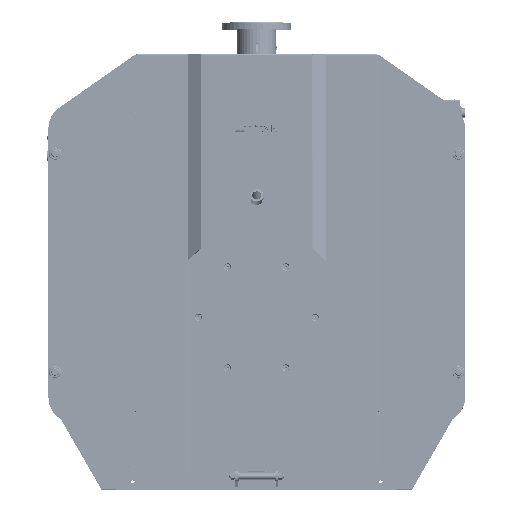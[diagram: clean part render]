
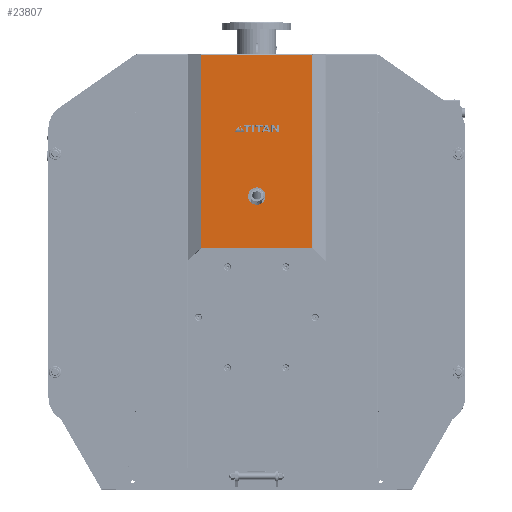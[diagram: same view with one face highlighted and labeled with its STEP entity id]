
A CAD part, top view. The second image highlights one B-rep face of the part: STEP entity #23807.
In plain terms, the highlighted planar face has unit normal (0, 0, 1) as drawn and (1, 0, 0) by its records, which use the part's own axes.
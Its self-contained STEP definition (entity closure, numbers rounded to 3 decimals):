
#23807=ADVANCED_FACE('',(#74054,#74056),#74058,.T.);
#74054=FACE_BOUND('',#74055,.T.);
#74055=EDGE_LOOP('',(#151126,#151127,#151128,#151129,#151130,#151131));
#74056=FACE_BOUND('',#74057,.T.);
#74057=EDGE_LOOP('',(#151132));
#74058=PLANE('',#74059);
#74059=AXIS2_PLACEMENT_3D('',#74060,#74061,#74062);
#74060=CARTESIAN_POINT('',(0.,-224.464,-415.));
#74061=DIRECTION('',(1.,0.,0.));
#74062=DIRECTION('',(0.,1.,0.));
#151126=ORIENTED_EDGE('',*,*,#189642,.T.);
#151127=ORIENTED_EDGE('',*,*,#189643,.T.);
#151128=ORIENTED_EDGE('',*,*,#189644,.T.);
#151129=ORIENTED_EDGE('',*,*,#189645,.F.);
#151130=ORIENTED_EDGE('',*,*,#189646,.T.);
#151131=ORIENTED_EDGE('',*,*,#189647,.T.);
#151132=ORIENTED_EDGE('',*,*,#189648,.T.);
#189642=EDGE_CURVE('',#213224,#213225,#213226,.F.);
#189643=EDGE_CURVE('',#213225,#213227,#213228,.T.);
#189644=EDGE_CURVE('',#213227,#213229,#213230,.F.);
#189645=EDGE_CURVE('',#213231,#213229,#213232,.T.);
#189646=EDGE_CURVE('',#213231,#213233,#213234,.F.);
#189647=EDGE_CURVE('',#213233,#213224,#213235,.T.);
#189648=EDGE_CURVE('',#213236,#213236,#213237,.F.);
#213224=VERTEX_POINT('',#267325);
#213225=VERTEX_POINT('',#267326);
#213226=CIRCLE('',#267327,1.439);
#213227=VERTEX_POINT('',#267331);
#213228=LINE('',#267332,#267333);
#213229=VERTEX_POINT('',#267335);
#213230=CIRCLE('',#267336,1.439);
#213231=VERTEX_POINT('',#267340);
#213232=LINE('',#267341,#267342);
#213233=VERTEX_POINT('',#267344);
#213234=LINE('',#267345,#267346);
#213235=LINE('',#267348,#267349);
#213236=VERTEX_POINT('',#267351);
#213237=CIRCLE('',#267352,35.);
#267325=CARTESIAN_POINT('',(0.,224.464,414.768));
#267326=CARTESIAN_POINT('',(0.,224.173,415.));
#267327=AXIS2_PLACEMENT_3D('',#267328,#267329,#267330);
#267328=CARTESIAN_POINT('',(0.,225.208,416.));
#267329=DIRECTION('',(1.,0.,0.));
#267330=DIRECTION('',(0.,-0.719,-0.695));
#267331=CARTESIAN_POINT('',(0.,-224.173,415.));
#267332=CARTESIAN_POINT('',(0.,224.173,415.));
#267333=VECTOR('',#267334,1.);
#267334=DIRECTION('',(0.,-1.,0.));
#267335=CARTESIAN_POINT('',(0.,-224.464,414.768));
#267336=AXIS2_PLACEMENT_3D('',#267337,#267338,#267339);
#267337=CARTESIAN_POINT('',(0.,-225.208,416.));
#267338=DIRECTION('',(1.,0.,0.));
#267339=DIRECTION('',(0.,0.517,-0.856));
#267340=CARTESIAN_POINT('',(0.,-224.464,-365.));
#267341=CARTESIAN_POINT('',(0.,-224.464,-365.));
#267342=VECTOR('',#267343,1.);
#267343=DIRECTION('',(0.,0.,1.));
#267344=CARTESIAN_POINT('',(0.,224.464,-365.));
#267345=CARTESIAN_POINT('',(0.,224.464,-365.));
#267346=VECTOR('',#267347,1.);
#267347=DIRECTION('',(0.,-1.,0.));
#267348=CARTESIAN_POINT('',(0.,224.464,-365.));
#267349=VECTOR('',#267350,1.);
#267350=DIRECTION('',(0.,0.,1.));
#267351=CARTESIAN_POINT('',(0.,35.,-155.));
#267352=AXIS2_PLACEMENT_3D('',#267353,#267354,#267355);
#267353=CARTESIAN_POINT('',(0.,0.,-155.));
#267354=DIRECTION('',(1.,0.,0.));
#267355=DIRECTION('',(0.,1.,0.));
